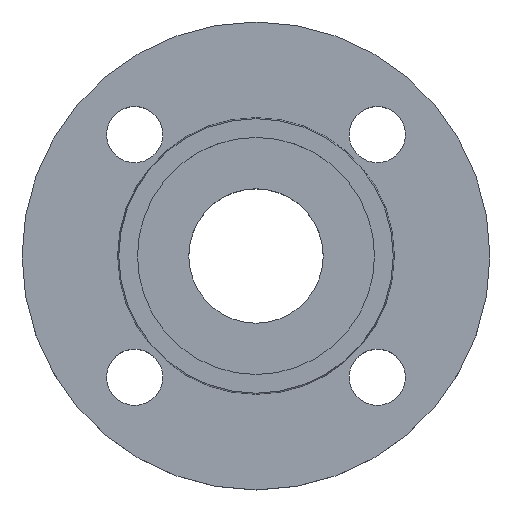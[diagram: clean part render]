
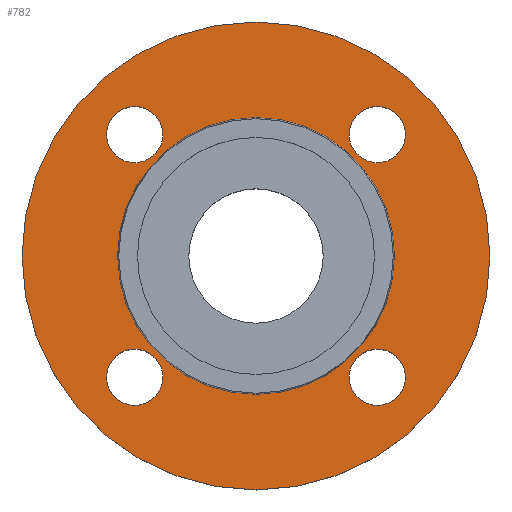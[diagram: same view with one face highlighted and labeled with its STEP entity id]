
A CAD part, top view. The second image highlights one B-rep face of the part: STEP entity #782.
In plain terms, the highlighted planar face has unit normal (0, 0, 1).
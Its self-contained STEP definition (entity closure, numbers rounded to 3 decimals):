
#6 = CIRCLE ( 'NONE', #402, 75. ) ;
#29 = EDGE_CURVE ( 'NONE', #590, #817, #162, .T. ) ;
#38 = EDGE_CURVE ( 'NONE', #814, #700, #6, .T. ) ;
#39 = CIRCLE ( 'NONE', #41, 44.353 ) ;
#41 = AXIS2_PLACEMENT_3D ( 'NONE', #167, #166, #165 ) ;
#70 = CIRCLE ( 'NONE', #75, 9. ) ;
#75 = AXIS2_PLACEMENT_3D ( 'NONE', #99, #98, #97 ) ;
#79 = CIRCLE ( 'NONE', #311, 9. ) ;
#80 = CARTESIAN_POINT ( 'NONE',  ( -47.891, 38.891, -2. ) ) ;
#83 = CARTESIAN_POINT ( 'NONE',  ( -47.891, -38.891, -2. ) ) ;
#85 = CARTESIAN_POINT ( 'NONE',  ( -75., 0., -2. ) ) ;
#89 = DIRECTION ( 'NONE',  ( 1., 0., 0. ) ) ;
#91 = DIRECTION ( 'NONE',  ( 0., 0., -1. ) ) ;
#96 = CARTESIAN_POINT ( 'NONE',  ( -38.891, 38.891, -2. ) ) ;
#97 = DIRECTION ( 'NONE',  ( 1., 0., 0. ) ) ;
#98 = DIRECTION ( 'NONE',  ( 0., 0., -1. ) ) ;
#99 = CARTESIAN_POINT ( 'NONE',  ( 38.891, -38.891, -2. ) ) ;
#102 = CARTESIAN_POINT ( 'NONE',  ( 47.891, 38.891, -2. ) ) ;
#103 = AXIS2_PLACEMENT_3D ( 'NONE', #433, #881, #434 ) ;
#107 = CARTESIAN_POINT ( 'NONE',  ( 29.891, 38.891, -2. ) ) ;
#118 = DIRECTION ( 'NONE',  ( 1., 0., 0. ) ) ;
#119 = DIRECTION ( 'NONE',  ( 0., 0., 1. ) ) ;
#121 = CARTESIAN_POINT ( 'NONE',  ( 44.353, 0., -2. ) ) ;
#122 = PLANE ( 'NONE',  #418 ) ;
#124 = FACE_OUTER_BOUND ( 'NONE', #823, .T. ) ;
#125 = FACE_BOUND ( 'NONE', #783, .T. ) ;
#126 = FACE_BOUND ( 'NONE', #825, .T. ) ;
#128 = FACE_BOUND ( 'NONE', #827, .T. ) ;
#129 = FACE_BOUND ( 'NONE', #794, .T. ) ;
#131 = FACE_BOUND ( 'NONE', #754, .T. ) ;
#145 = AXIS2_PLACEMENT_3D ( 'NONE', #373, #375, #377 ) ;
#162 = CIRCLE ( 'NONE', #758, 9. ) ;
#165 = DIRECTION ( 'NONE',  ( -1., 0., 0. ) ) ;
#166 = DIRECTION ( 'NONE',  ( 0., 0., -1. ) ) ;
#167 = CARTESIAN_POINT ( 'NONE',  ( 0., 0., -2. ) ) ;
#171 = EDGE_CURVE ( 'NONE', #824, #572, #645, .T. ) ;
#183 = CARTESIAN_POINT ( 'NONE',  ( 29.891, -38.891, -2. ) ) ;
#184 = CARTESIAN_POINT ( 'NONE',  ( -44.353, 0., -2. ) ) ;
#188 = CARTESIAN_POINT ( 'NONE',  ( 75., 0., -2. ) ) ;
#209 = DIRECTION ( 'NONE',  ( 1., 0., 0. ) ) ;
#213 = EDGE_CURVE ( 'NONE', #817, #590, #565, .T. ) ;
#227 = EDGE_CURVE ( 'NONE', #700, #814, #335, .T. ) ;
#229 = CARTESIAN_POINT ( 'NONE',  ( -29.891, -38.891, -2. ) ) ;
#242 = CARTESIAN_POINT ( 'NONE',  ( 47.891, -38.891, -2. ) ) ;
#246 = CARTESIAN_POINT ( 'NONE',  ( -29.891, 38.891, -2. ) ) ;
#254 = CARTESIAN_POINT ( 'NONE',  ( 44.353, 0., -2. ) ) ;
#270 = EDGE_CURVE ( 'NONE', #715, #564, #287, .T. ) ;
#287 = CIRCLE ( 'NONE', #103, 44.353 ) ;
#297 = AXIS2_PLACEMENT_3D ( 'NONE', #397, #399, #400 ) ;
#311 = AXIS2_PLACEMENT_3D ( 'NONE', #96, #91, #89 ) ;
#326 = EDGE_CURVE ( 'NONE', #796, #792, #358, .T. ) ;
#335 = CIRCLE ( 'NONE', #297, 75. ) ;
#349 = AXIS2_PLACEMENT_3D ( 'NONE', #513, #883, #393 ) ;
#358 = CIRCLE ( 'NONE', #772, 9. ) ;
#367 = CIRCLE ( 'NONE', #647, 9. ) ;
#373 = CARTESIAN_POINT ( 'NONE',  ( -38.891, -38.891, -2. ) ) ;
#374 = EDGE_CURVE ( 'NONE', #792, #796, #473, .T. ) ;
#375 = DIRECTION ( 'NONE',  ( 0., 0., -1. ) ) ;
#377 = DIRECTION ( 'NONE',  ( 1., 0., 0. ) ) ;
#393 = DIRECTION ( 'NONE',  ( 1., 0., 0. ) ) ;
#397 = CARTESIAN_POINT ( 'NONE',  ( 0., 0., -2. ) ) ;
#399 = DIRECTION ( 'NONE',  ( 0., 0., -1. ) ) ;
#400 = DIRECTION ( 'NONE',  ( -1., 0., 0. ) ) ;
#402 = AXIS2_PLACEMENT_3D ( 'NONE', #853, #854, #856 ) ;
#405 = AXIS2_PLACEMENT_3D ( 'NONE', #896, #897, #900 ) ;
#418 = AXIS2_PLACEMENT_3D ( 'NONE', #121, #119, #118 ) ;
#433 = CARTESIAN_POINT ( 'NONE',  ( 0., 0., -2. ) ) ;
#434 = DIRECTION ( 'NONE',  ( -1., 0., 0. ) ) ;
#462 = CARTESIAN_POINT ( 'NONE',  ( 38.891, 38.891, -2. ) ) ;
#465 = DIRECTION ( 'NONE',  ( 0., 0., -1. ) ) ;
#467 = DIRECTION ( 'NONE',  ( 1., 0., 0. ) ) ;
#473 = CIRCLE ( 'NONE', #349, 9. ) ;
#483 = EDGE_CURVE ( 'NONE', #718, #576, #367, .T. ) ;
#513 = CARTESIAN_POINT ( 'NONE',  ( 38.891, 38.891, -2. ) ) ;
#564 = VERTEX_POINT ( 'NONE', #254 ) ;
#565 = CIRCLE ( 'NONE', #145, 9. ) ;
#572 = VERTEX_POINT ( 'NONE', #246 ) ;
#576 = VERTEX_POINT ( 'NONE', #242 ) ;
#590 = VERTEX_POINT ( 'NONE', #229 ) ;
#645 = CIRCLE ( 'NONE', #405, 9. ) ;
#647 = AXIS2_PLACEMENT_3D ( 'NONE', #874, #858, #209 ) ;
#662 = ORIENTED_EDGE ( 'NONE', *, *, #808, .T. ) ;
#663 = ORIENTED_EDGE ( 'NONE', *, *, #483, .T. ) ;
#665 = ORIENTED_EDGE ( 'NONE', *, *, #29, .T. ) ;
#666 = ORIENTED_EDGE ( 'NONE', *, *, #213, .T. ) ;
#667 = ORIENTED_EDGE ( 'NONE', *, *, #811, .T. ) ;
#668 = ORIENTED_EDGE ( 'NONE', *, *, #171, .T. ) ;
#669 = ORIENTED_EDGE ( 'NONE', *, *, #326, .T. ) ;
#671 = ORIENTED_EDGE ( 'NONE', *, *, #374, .T. ) ;
#673 = ORIENTED_EDGE ( 'NONE', *, *, #270, .T. ) ;
#674 = ORIENTED_EDGE ( 'NONE', *, *, #730, .T. ) ;
#700 = VERTEX_POINT ( 'NONE', #188 ) ;
#715 = VERTEX_POINT ( 'NONE', #184 ) ;
#718 = VERTEX_POINT ( 'NONE', #183 ) ;
#730 = EDGE_CURVE ( 'NONE', #564, #715, #39, .T. ) ;
#739 = ORIENTED_EDGE ( 'NONE', *, *, #227, .F. ) ;
#754 = EDGE_LOOP ( 'NONE', ( #662, #663 ) ) ;
#758 = AXIS2_PLACEMENT_3D ( 'NONE', #845, #846, #847 ) ;
#772 = AXIS2_PLACEMENT_3D ( 'NONE', #462, #465, #467 ) ;
#782 = ADVANCED_FACE ( 'NONE', ( #131, #129, #128, #126, #125, #124 ), #122, .T. ) ;
#783 = EDGE_LOOP ( 'NONE', ( #673, #674 ) ) ;
#792 = VERTEX_POINT ( 'NONE', #107 ) ;
#794 = EDGE_LOOP ( 'NONE', ( #665, #666 ) ) ;
#796 = VERTEX_POINT ( 'NONE', #102 ) ;
#808 = EDGE_CURVE ( 'NONE', #576, #718, #70, .T. ) ;
#811 = EDGE_CURVE ( 'NONE', #572, #824, #79, .T. ) ;
#814 = VERTEX_POINT ( 'NONE', #85 ) ;
#817 = VERTEX_POINT ( 'NONE', #83 ) ;
#819 = ORIENTED_EDGE ( 'NONE', *, *, #38, .F. ) ;
#823 = EDGE_LOOP ( 'NONE', ( #739, #819 ) ) ;
#824 = VERTEX_POINT ( 'NONE', #80 ) ;
#825 = EDGE_LOOP ( 'NONE', ( #669, #671 ) ) ;
#827 = EDGE_LOOP ( 'NONE', ( #667, #668 ) ) ;
#845 = CARTESIAN_POINT ( 'NONE',  ( -38.891, -38.891, -2. ) ) ;
#846 = DIRECTION ( 'NONE',  ( 0., 0., -1. ) ) ;
#847 = DIRECTION ( 'NONE',  ( 1., 0., 0. ) ) ;
#853 = CARTESIAN_POINT ( 'NONE',  ( 0., 0., -2. ) ) ;
#854 = DIRECTION ( 'NONE',  ( 0., 0., -1. ) ) ;
#856 = DIRECTION ( 'NONE',  ( -1., 0., 0. ) ) ;
#858 = DIRECTION ( 'NONE',  ( 0., 0., -1. ) ) ;
#874 = CARTESIAN_POINT ( 'NONE',  ( 38.891, -38.891, -2. ) ) ;
#881 = DIRECTION ( 'NONE',  ( 0., 0., -1. ) ) ;
#883 = DIRECTION ( 'NONE',  ( 0., 0., -1. ) ) ;
#896 = CARTESIAN_POINT ( 'NONE',  ( -38.891, 38.891, -2. ) ) ;
#897 = DIRECTION ( 'NONE',  ( 0., 0., -1. ) ) ;
#900 = DIRECTION ( 'NONE',  ( 1., 0., 0. ) ) ;
